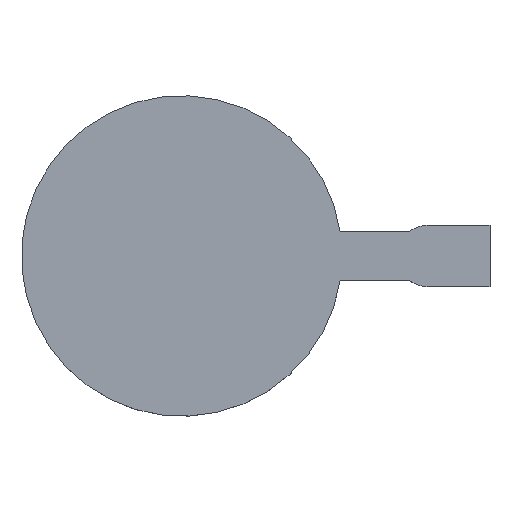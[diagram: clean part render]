
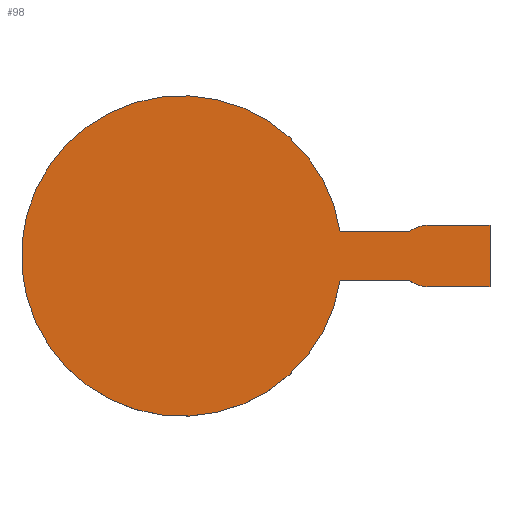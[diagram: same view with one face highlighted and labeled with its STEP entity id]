
A CAD part, top view. The second image highlights one B-rep face of the part: STEP entity #98.
In plain terms, the highlighted planar face has unit normal (0, 0, 1).
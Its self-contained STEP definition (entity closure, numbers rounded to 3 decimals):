
#98 = ADVANCED_FACE( '', ( #195 ), #196, .T. );
#195 = FACE_OUTER_BOUND( '', #324, .T. );
#196 = PLANE( '', #325 );
#324 = EDGE_LOOP( '', ( #493, #494, #495, #496, #497, #498, #499, #500 ) );
#325 = AXIS2_PLACEMENT_3D( '', #501, #502, #503 );
#493 = ORIENTED_EDGE( '', *, *, #594, .T. );
#494 = ORIENTED_EDGE( '', *, *, #559, .T. );
#495 = ORIENTED_EDGE( '', *, *, #604, .T. );
#496 = ORIENTED_EDGE( '', *, *, #605, .T. );
#497 = ORIENTED_EDGE( '', *, *, #551, .T. );
#498 = ORIENTED_EDGE( '', *, *, #601, .T. );
#499 = ORIENTED_EDGE( '', *, *, #577, .T. );
#500 = ORIENTED_EDGE( '', *, *, #542, .T. );
#501 = CARTESIAN_POINT( '', ( -125., -125., 2.5 ) );
#502 = DIRECTION( '', ( 0., 0., 1. ) );
#503 = DIRECTION( '', ( 0., -1., 0. ) );
#542 = EDGE_CURVE( '', #621, #618, #622, .T. );
#551 = EDGE_CURVE( '', #638, #636, #639, .T. );
#559 = EDGE_CURVE( '', #653, #651, #654, .T. );
#577 = EDGE_CURVE( '', #679, #621, #680, .T. );
#594 = EDGE_CURVE( '', #618, #653, #701, .T. );
#601 = EDGE_CURVE( '', #636, #679, #710, .T. );
#604 = EDGE_CURVE( '', #651, #713, #714, .T. );
#605 = EDGE_CURVE( '', #713, #638, #715, .T. );
#618 = VERTEX_POINT( '', #729 );
#621 = VERTEX_POINT( '', #733 );
#622 = LINE( '', #734, #735 );
#636 = VERTEX_POINT( '', #755 );
#638 = VERTEX_POINT( '', #758 );
#639 = LINE( '', #759, #760 );
#651 = VERTEX_POINT( '', #776 );
#653 = VERTEX_POINT( '', #779 );
#654 = CIRCLE( '', #780, 12.5 );
#679 = VERTEX_POINT( '', #810 );
#680 = LINE( '', #811, #812 );
#701 = LINE( '', #839, #840 );
#710 = CIRCLE( '', #849, 12.5 );
#713 = VERTEX_POINT( '', #852 );
#714 = LINE( '', #853, #854 );
#715 = CIRCLE( '', #855, 65. );
#729 = CARTESIAN_POINT( '', ( 125., 12.5, 2.5 ) );
#733 = CARTESIAN_POINT( '', ( 125., -12.5, 2.5 ) );
#734 = CARTESIAN_POINT( '', ( 125., -125., 2.5 ) );
#735 = VECTOR( '', #871, 1000. );
#755 = CARTESIAN_POINT( '', ( 92.5, -10., 2.5 ) );
#758 = CARTESIAN_POINT( '', ( 64.226, -10., 2.5 ) );
#759 = CARTESIAN_POINT( '', ( 0., -10., 2.5 ) );
#760 = VECTOR( '', #879, 1000. );
#776 = CARTESIAN_POINT( '', ( 92.5, 10., 2.5 ) );
#779 = CARTESIAN_POINT( '', ( 100., 12.5, 2.5 ) );
#780 = AXIS2_PLACEMENT_3D( '', #888, #889, #890 );
#810 = CARTESIAN_POINT( '', ( 100., -12.5, 2.5 ) );
#811 = CARTESIAN_POINT( '', ( 100., -12.5, 2.5 ) );
#812 = VECTOR( '', #917, 1000. );
#839 = CARTESIAN_POINT( '', ( 148.185, 12.5, 2.5 ) );
#840 = VECTOR( '', #936, 1000. );
#849 = AXIS2_PLACEMENT_3D( '', #943, #944, #945 );
#852 = CARTESIAN_POINT( '', ( 64.226, 10., 2.5 ) );
#853 = CARTESIAN_POINT( '', ( 100., 10., 2.5 ) );
#854 = VECTOR( '', #946, 1000. );
#855 = AXIS2_PLACEMENT_3D( '', #947, #948, #949 );
#871 = DIRECTION( '', ( 0., 1., 0. ) );
#879 = DIRECTION( '', ( 1., 0., 0. ) );
#888 = CARTESIAN_POINT( '', ( 100., 0., 2.5 ) );
#889 = DIRECTION( '', ( 0., 0., 1. ) );
#890 = DIRECTION( '', ( 0., 1., 0. ) );
#917 = DIRECTION( '', ( 1., 0., 0. ) );
#936 = DIRECTION( '', ( -1., 0., 0. ) );
#943 = CARTESIAN_POINT( '', ( 100., 0., 2.5 ) );
#944 = DIRECTION( '', ( 0., 0., 1. ) );
#945 = DIRECTION( '', ( 0., 1., 0. ) );
#946 = DIRECTION( '', ( -1., 0., 0. ) );
#947 = CARTESIAN_POINT( '', ( 0., 0., 2.5 ) );
#948 = DIRECTION( '', ( 0., 0., 1. ) );
#949 = DIRECTION( '', ( 1., 0., 0. ) );
